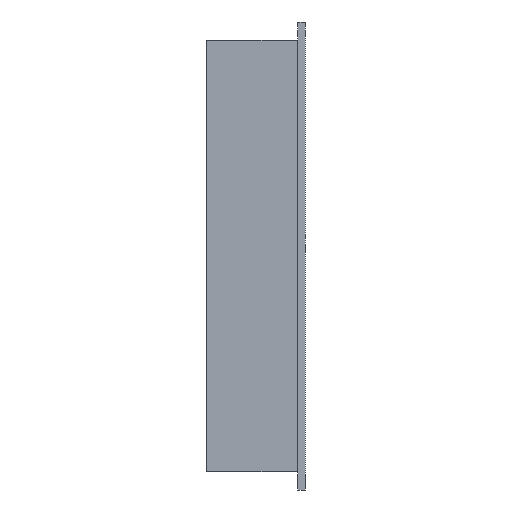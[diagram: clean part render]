
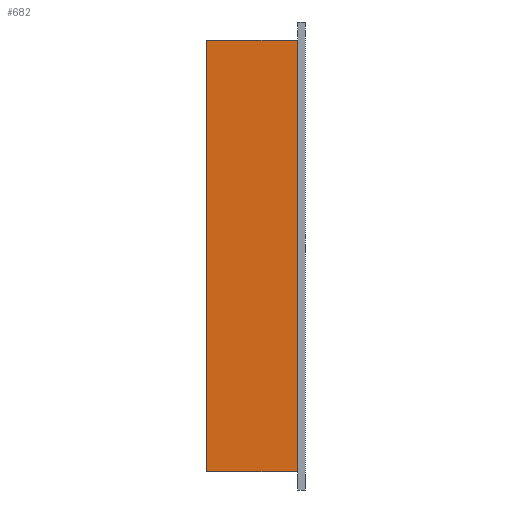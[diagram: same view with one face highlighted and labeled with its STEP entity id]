
A CAD part, left-side view. The second image highlights one B-rep face of the part: STEP entity #682.
In plain terms, the highlighted planar face has unit normal (-1, 0, 0).
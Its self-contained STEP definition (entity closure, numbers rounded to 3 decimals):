
#126 = DIRECTION ( 'NONE',  ( 0., -1., 0. ) ) ;
#146 = CARTESIAN_POINT ( 'NONE',  ( -98., 0.2, 58.7 ) ) ;
#278 = CARTESIAN_POINT ( 'NONE',  ( -98., 24.8, -58.7 ) ) ;
#290 = VECTOR ( 'NONE', #3118, 1000. ) ;
#352 = DIRECTION ( 'NONE',  ( 0., -1., 0. ) ) ;
#574 = DIRECTION ( 'NONE',  ( 0., 1., 0. ) ) ;
#682 = ADVANCED_FACE ( 'NONE', ( #2891 ), #1707, .F. ) ;
#855 = EDGE_LOOP ( 'NONE', ( #1765, #2317, #3696, #1432 ) ) ;
#940 = CARTESIAN_POINT ( 'NONE',  ( -98., 24.8, -58.7 ) ) ;
#966 = EDGE_CURVE ( 'NONE', #2912, #2395, #1573, .T. ) ;
#1401 = CARTESIAN_POINT ( 'NONE',  ( -98., 0.2, -58.7 ) ) ;
#1432 = ORIENTED_EDGE ( 'NONE', *, *, #3646, .T. ) ;
#1573 = LINE ( 'NONE', #2724, #2628 ) ;
#1707 = PLANE ( 'NONE',  #2844 ) ;
#1713 = VERTEX_POINT ( 'NONE', #2918 ) ;
#1738 = CARTESIAN_POINT ( 'NONE',  ( -98., 24.8, 58.7 ) ) ;
#1746 = VECTOR ( 'NONE', #352, 1000. ) ;
#1765 = ORIENTED_EDGE ( 'NONE', *, *, #3480, .T. ) ;
#1971 = LINE ( 'NONE', #1401, #290 ) ;
#2221 = DIRECTION ( 'NONE',  ( 1., 0., 0. ) ) ;
#2317 = ORIENTED_EDGE ( 'NONE', *, *, #966, .F. ) ;
#2383 = EDGE_CURVE ( 'NONE', #2547, #2912, #3282, .T. ) ;
#2395 = VERTEX_POINT ( 'NONE', #146 ) ;
#2448 = DIRECTION ( 'NONE',  ( 0., 0., 1. ) ) ;
#2547 = VERTEX_POINT ( 'NONE', #278 ) ;
#2628 = VECTOR ( 'NONE', #126, 1000. ) ;
#2724 = CARTESIAN_POINT ( 'NONE',  ( -98., 24.8, 58.7 ) ) ;
#2844 = AXIS2_PLACEMENT_3D ( 'NONE', #3170, #2221, #574 ) ;
#2891 = FACE_OUTER_BOUND ( 'NONE', #855, .T. ) ;
#2912 = VERTEX_POINT ( 'NONE', #1738 ) ;
#2918 = CARTESIAN_POINT ( 'NONE',  ( -98., 0.2, -58.7 ) ) ;
#2939 = CARTESIAN_POINT ( 'NONE',  ( -98., 24.8, -58.7 ) ) ;
#3118 = DIRECTION ( 'NONE',  ( 0., 0., 1. ) ) ;
#3170 = CARTESIAN_POINT ( 'NONE',  ( -98., 24.8, -58.7 ) ) ;
#3282 = LINE ( 'NONE', #940, #3507 ) ;
#3480 = EDGE_CURVE ( 'NONE', #1713, #2395, #1971, .T. ) ;
#3493 = LINE ( 'NONE', #2939, #1746 ) ;
#3507 = VECTOR ( 'NONE', #2448, 1000. ) ;
#3646 = EDGE_CURVE ( 'NONE', #2547, #1713, #3493, .T. ) ;
#3696 = ORIENTED_EDGE ( 'NONE', *, *, #2383, .F. ) ;
